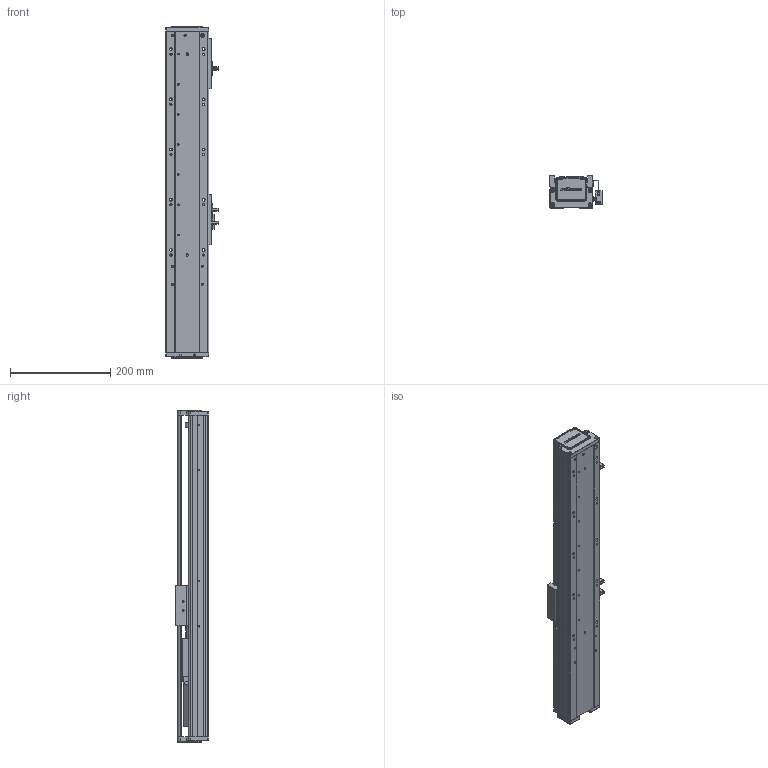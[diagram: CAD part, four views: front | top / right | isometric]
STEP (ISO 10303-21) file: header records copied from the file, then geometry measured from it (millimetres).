
FILE_DESCRIPTION (( 'STEP AP203' ), '1' );
FILE_NAME ('RY80-L1620-300-IK.SLDASM_300.step', '2021-02-22T05:28:28', ( '盈信电脑' ), ( '东莞市道滘镇水果街19号' ), 'SwSTEP 2.0', 'SolidWorks 2012', '' );
FILE_SCHEMA (( 'CONFIG_CONTROL_DESIGN' ));
Length unit declared in the file: millimetre
Products named in the file (14): RY80囀离ヶ啣; RY80-L1620-300-IK.SLDASM_300; 滅袉蝶18-24; RY80俋离覜茼え; 侂狟100W; 覜茼ん672; RY80囀离萇儂啣; RY80綴裔啣; 滅袉蝶18-10; 672嫖萇羲壽假蚾釱; RY80-300倰第奻裔啣-IK; RY80萇儂傷盓傅釱; RY80-300倰第菁釱-IK; RY80臏賑輸
Assembly tree (16 placements, depth 2):
  RY80-L1620-300-IK.SLDASM_300
    RY80-300倰第菁釱-IK
    RY80臏賑輸
    RY80-300倰第奻裔啣-IK
    RY80萇儂傷盓傅釱
    RY80綴裔啣
    滅袉蝶18-10
    672嫖萇羲壽假蚾釱  x2
    覜茼ん672  x3
    RY80俋离覜茼え
    侂狟100W
    RY80囀离萇儂啣
    RY80囀离ヶ啣
    滅袉蝶18-24
Bounding box: 103.7 x 65 x 661 mm (x, y, z)
Volume: 1274451.1 mm3; surface area: 518490.6 mm2
Topology: 16 solids, 16 shells, 2007 faces, 5550 edges, 3619 vertices
Faces by surface type: plane 1258, cylinder 613, cone 92, bspline 44
Entity records: 62579 total; most frequent: CARTESIAN_POINT 15317, ORIENTED_EDGE 9820, DIRECTION 8925, EDGE_CURVE 4910, VECTOR 3371, LINE 3371, VERTEX_POINT 3235, AXIS2_PLACEMENT_3D 2777
